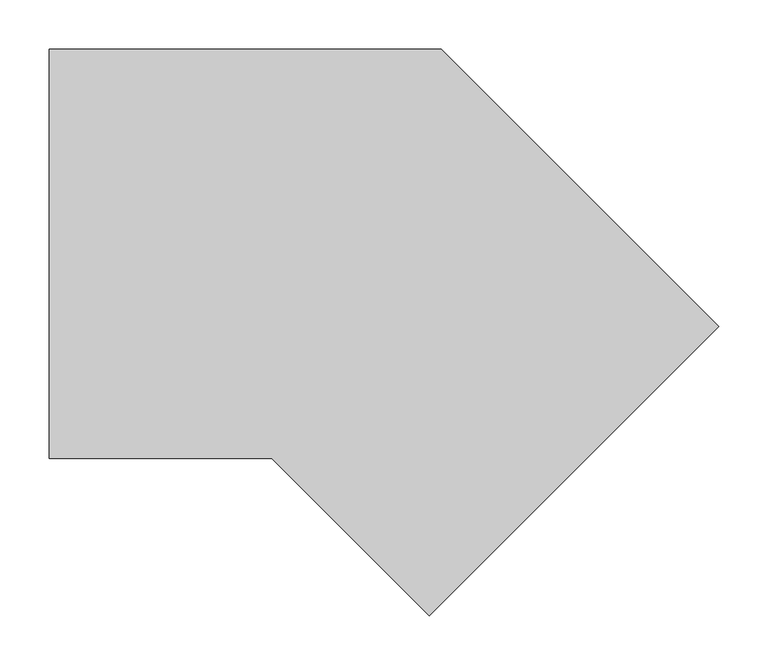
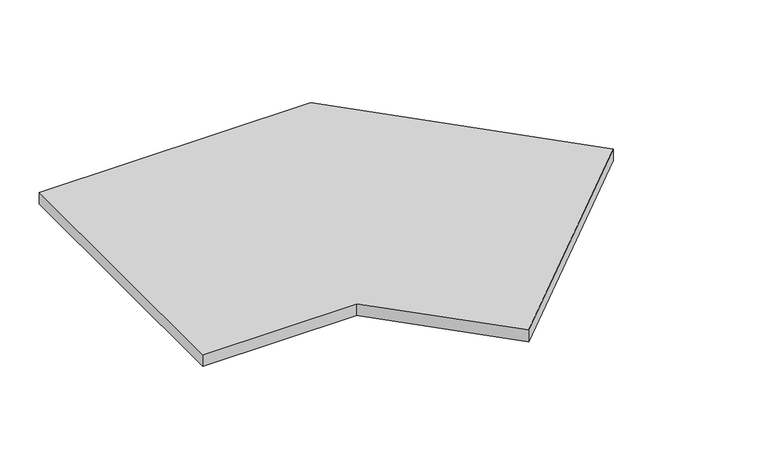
"""IFC4 building model written with IfcOpenShell, lengths in millimetres: proxy geometry, TECHNO_Решетка_KVU : Решетка рулонная алюминиевая/ Белый RAL 9016."""

from ifc_helpers import new_model, si_unit, frame, origin, place, context, project, spatial, polyline, outline, extrude, source, transform, mapped, element, save


def mechanical_equipment_4af7111c(model_context):
    return source(origin(), model_context, "Body", "SweptSolid", [
        extrude(outline(polyline([(369.3325858, -74.044794), (74.044794, -369.3325858), (-86.4877918, -208.8), (-313.5151519, -208.8), (-313.5151519, 208.8), (86.4877918, 208.8), (369.3325858, -74.044794)])), frame((0.0, 0.0, -18.1), z_axis=(0.0, 0.0, 1.0), x_axis=(1.0, 0.0, 0.0)), (0.0, 0.0, 1.0), 18.1),
    ])


if __name__ == "__main__":
    model = new_model("IFC4")
    model_context = context("Model", 3, world=origin())
    ifc_project = project(units=[si_unit("LENGTHUNIT", "METRE", prefix="MILLI")], contexts=[model_context])
    site = spatial("IfcSite", under=ifc_project)
    building = spatial("IfcBuilding", under=site)
    placement = place(None, origin())
    mechanical_equipment_shape = mechanical_equipment_4af7111c(model_context)
    element("IfcBuildingElementProxy", 1, Name="TECHNO_Решетка_KVU : Решетка рулонная алюминиевая/ Белый RAL 9016", ObjectType="TECHNO_Решетка_KVU : Решетка рулонная алюминиевая/ Белый RAL 9016", at=placement, inside=building, context=model_context, shape_type="MappedRepresentation", body=[
        mapped(mechanical_equipment_shape, transform((0.0, 0.0, 0.0), x_axis=(1.0, 0.0, 0.0), y_axis=(0.0, 1.0, 0.0), z_axis=(0.0, 0.0, 1.0))),
    ])
    save(model, "model.ifc")
